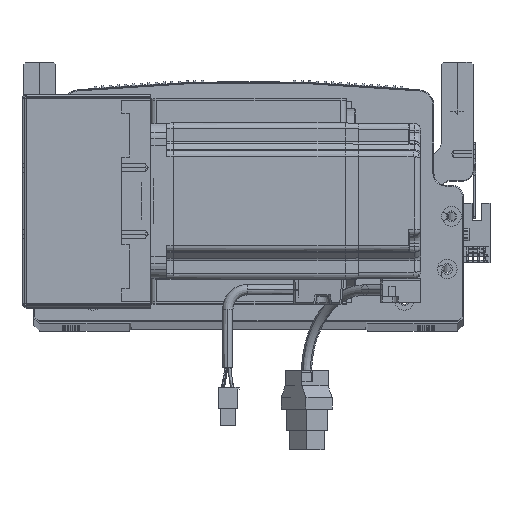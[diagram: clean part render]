
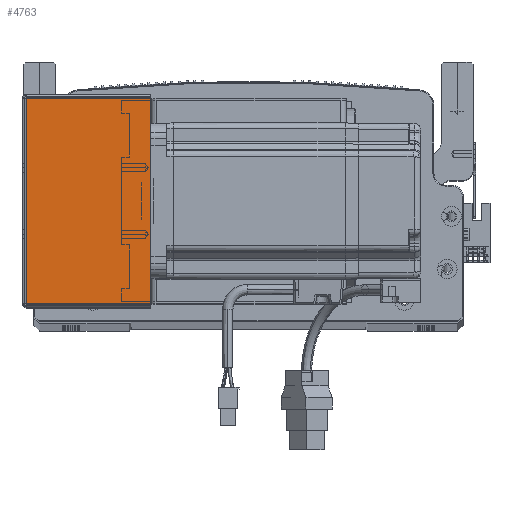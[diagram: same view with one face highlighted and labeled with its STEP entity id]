
A CAD part, top view. The second image highlights one B-rep face of the part: STEP entity #4763.
In plain terms, the highlighted planar face has unit normal (0, 0, 1) as drawn and (0, 0, -1) by its records, which use the part's own axes.
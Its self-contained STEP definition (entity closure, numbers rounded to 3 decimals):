
#4763 = ADVANCED_FACE ( 'NONE', ( #78470 ), #86734, .F. ) ;
#7091 = CARTESIAN_POINT ( 'NONE',  ( 64.5, 105.293, -205.5 ) ) ;
#7970 = DIRECTION ( 'NONE',  ( 1., 0., 0. ) ) ;
#8023 = DIRECTION ( 'NONE',  ( 0., -1., 0. ) ) ;
#8868 = CARTESIAN_POINT ( 'NONE',  ( 0., 0.707, -205.5 ) ) ;
#10117 = AXIS2_PLACEMENT_3D ( 'NONE', #51101, #22938, #80470 ) ;
#14403 = DIRECTION ( 'NONE',  ( 1., 0., 0. ) ) ;
#15078 = ORIENTED_EDGE ( 'NONE', *, *, #42552, .T. ) ;
#17034 = ORIENTED_EDGE ( 'NONE', *, *, #33471, .F. ) ;
#18834 = EDGE_CURVE ( 'NONE', #48574, #68312, #21006, .T. ) ;
#21006 = LINE ( 'NONE', #23149, #53431 ) ;
#21588 = CARTESIAN_POINT ( 'NONE',  ( 0., 105.293, -205.5 ) ) ;
#22938 = DIRECTION ( 'NONE',  ( 0., 0., 1. ) ) ;
#23149 = CARTESIAN_POINT ( 'NONE',  ( 0.737, 0., -205.5 ) ) ;
#25284 = LINE ( 'NONE', #86454, #84596 ) ;
#31686 = VECTOR ( 'NONE', #14403, 1000. ) ;
#33086 = ORIENTED_EDGE ( 'NONE', *, *, #35120, .T. ) ;
#33214 = VERTEX_POINT ( 'NONE', #76749 ) ;
#33471 = EDGE_CURVE ( 'NONE', #68312, #33214, #68211, .T. ) ;
#35120 = EDGE_CURVE ( 'NONE', #48574, #49028, #91009, .T. ) ;
#42552 = EDGE_CURVE ( 'NONE', #49028, #33214, #25284, .T. ) ;
#45038 = DIRECTION ( 'NONE',  ( 0., -1., 0. ) ) ;
#46962 = VECTOR ( 'NONE', #7970, 1000. ) ;
#48574 = VERTEX_POINT ( 'NONE', #72487 ) ;
#49028 = VERTEX_POINT ( 'NONE', #7091 ) ;
#51101 = CARTESIAN_POINT ( 'NONE',  ( 0., 0., -205.5 ) ) ;
#53431 = VECTOR ( 'NONE', #45038, 1000. ) ;
#57312 = EDGE_LOOP ( 'NONE', ( #58800, #33086, #15078, #17034 ) ) ;
#58800 = ORIENTED_EDGE ( 'NONE', *, *, #18834, .F. ) ;
#68211 = LINE ( 'NONE', #8868, #46962 ) ;
#68312 = VERTEX_POINT ( 'NONE', #72595 ) ;
#72487 = CARTESIAN_POINT ( 'NONE',  ( 0.737, 105.293, -205.5 ) ) ;
#72595 = CARTESIAN_POINT ( 'NONE',  ( 0.737, 0.707, -205.5 ) ) ;
#76749 = CARTESIAN_POINT ( 'NONE',  ( 64.5, 0.707, -205.5 ) ) ;
#78470 = FACE_OUTER_BOUND ( 'NONE', #57312, .T. ) ;
#80470 = DIRECTION ( 'NONE',  ( 1., 0., 0. ) ) ;
#84596 = VECTOR ( 'NONE', #8023, 1000. ) ;
#86454 = CARTESIAN_POINT ( 'NONE',  ( 64.5, 0., -205.5 ) ) ;
#86734 = PLANE ( 'NONE',  #10117 ) ;
#91009 = LINE ( 'NONE', #21588, #31686 ) ;
